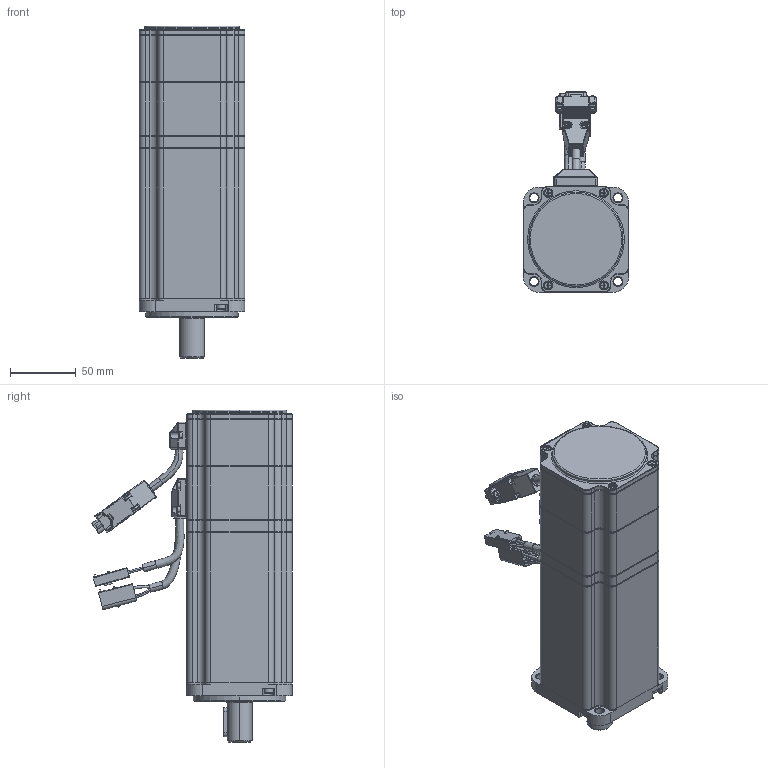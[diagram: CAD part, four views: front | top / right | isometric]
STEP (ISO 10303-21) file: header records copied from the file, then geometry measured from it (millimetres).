
FILE_DESCRIPTION (( 'STEP AP203' ), '1' );
FILE_NAME ('L80-1003026XBL（SMH80-1003026XBL-XX）.STEP', '2016-06-08T02:14:11', ( '微软用户' ), ( '微软中国' ), 'SwSTEP 2.0', 'SolidWorks 2011', '' );
FILE_SCHEMA (( 'CONFIG_CONTROL_DESIGN' ));
Products named in the file (28): L80-1003026XBL（SMH80-1003026XBL-XX）; 嘎殤蚐猾; hexagon socket head cap screws gb_GB_FASTENER_SCREWS_HSHCS M2.5X8-N; 晤鎢ん竘盄碟; 晤鎢ん竘盄菜; 价陬欶; hexagon socket head cap screws gb_GB_FASTENER_SCREWS_HSHCS M2.5X10-N; 竘盄碟; 竘盄菜; circlips for holes--type a gb_GB_CONNECTING_PIECE_RING_RRH 42; 瑩; cross recessed countersunk head screws gb2_GB_CROSS_SCREWS_TYPE10 M3X8-6.35-H1-N; hexagon socket head cap screws gb_GB_FASTENER_SCREWS_HSHCS M4X35-N; 鎢攫欶綴裔; 躇猾菜; 鎢攫欶; 蛌赽軞傖_Default; 綴傷裔; deep groove ball bearings gb_Rolling bearings 6004 GB 276-94; deep groove ball bearings gb_Rolling bearings 6002 GB 276-94; circlips for shaft--type a large gb_GB_CONNECTING_PIECE_RING_RRA 15; 蛌赽郪璃_Default; 蛌粣; 隅赽軞傖_Default; hexagon socket head cap screws gb_GB_FASTENER_SCREWS_HSHCS M4X16-N; ヶ傷裔И璃; 儂褲; ヶ傷裔
Assembly tree (51 placements, depth 4):
  L80-1003026XBL（SMH80-1003026XBL-XX）
    hexagon socket head cap screws gb_GB_FASTENER_SCREWS_HSHCS M2.5X10-N  x4
    竘盄碟
    竘盄菜
    circlips for holes--type a gb_GB_CONNECTING_PIECE_RING_RRH 42
    瑩
    cross recessed countersunk head screws gb2_GB_CROSS_SCREWS_TYPE10 M3X8-6.35-H1-N  x4
    hexagon socket head cap screws gb_GB_FASTENER_SCREWS_HSHCS M4X35-N  x8
    鎢攫欶綴裔
    躇猾菜  x4
    鎢攫欶
    隅赽軞傖_Default
      hexagon socket head cap screws gb_GB_FASTENER_SCREWS_HSHCS M4X16-N  x4
      ヶ傷裔И璃
      儂褲
      ヶ傷裔
    蛌赽軞傖_Default
      蛌赽郪璃_Default
        蛌粣
      綴傷裔
      deep groove ball bearings gb_Rolling bearings 6004 GB 276-94
      deep groove ball bearings gb_Rolling bearings 6002 GB 276-94
      circlips for shaft--type a large gb_GB_CONNECTING_PIECE_RING_RRA 15
    hexagon socket head cap screws gb_GB_FASTENER_SCREWS_HSHCS M4X16-N  x4
    嘎殤蚐猾
    hexagon socket head cap screws gb_GB_FASTENER_SCREWS_HSHCS M2.5X8-N  x2
    晤鎢ん竘盄菜
    价陬欶
    晤鎢ん竘盄碟
Bounding box: 80 x 152.21 x 252.1 mm (x, y, z)
Volume: 430991.9 mm3; surface area: 256666.8 mm2
Topology: 66 solids, 66 shells, 3431 faces, 9229 edges, 5738 vertices
Faces by surface type: cylinder 1408, plane 1273, cone 229, torus 213, sphere 176, bspline 132
Entity records: 97625 total; most frequent: CARTESIAN_POINT 25431, DIRECTION 14602, ORIENTED_EDGE 14458, EDGE_CURVE 7229, AXIS2_PLACEMENT_3D 5637, VERTEX_POINT 4602, VECTOR 3328, LINE 3328
